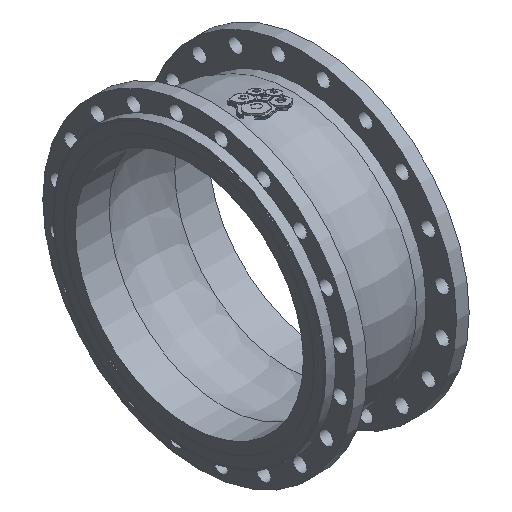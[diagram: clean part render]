
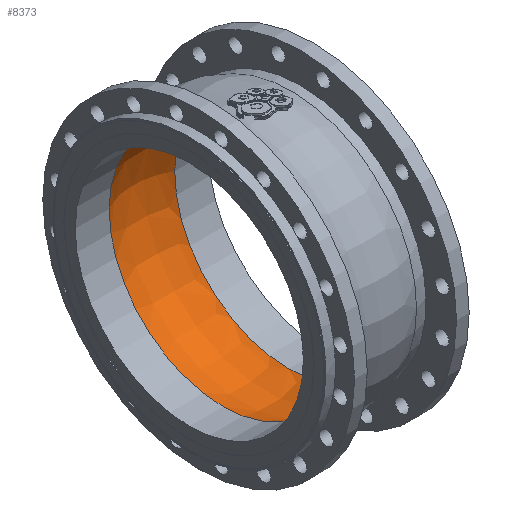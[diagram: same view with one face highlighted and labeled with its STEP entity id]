
A CAD part, isometric view. The second image highlights one B-rep face of the part: STEP entity #8373.
In plain terms, the highlighted toroidal (fillet/blend) face has major radius 112.146 mm and minor radius 130.075 mm.
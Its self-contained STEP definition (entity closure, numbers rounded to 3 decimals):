
#8373=ADVANCED_FACE('',(#15126,#15128),#15130,.F.);
#15126=FACE_BOUND('',#15127,.T.);
#15127=EDGE_LOOP('',(#20838,#20839));
#15128=FACE_BOUND('',#15129,.T.);
#15129=EDGE_LOOP('',(#20840,#20841));
#15130=DEGENERATE_TOROIDAL_SURFACE('',#15131,112.146,130.075,.T.);
#15131=AXIS2_PLACEMENT_3D('',#15132,#15133,#15134);
#15132=CARTESIAN_POINT('',(-246.97,-388.429,0.));
#15133=DIRECTION('',(1.,0.,0.));
#15134=DIRECTION('',(0.,0.,-1.));
#20838=ORIENTED_EDGE('',*,*,#23692,.T.);
#20839=ORIENTED_EDGE('',*,*,#23691,.T.);
#20840=ORIENTED_EDGE('',*,*,#23693,.F.);
#20841=ORIENTED_EDGE('',*,*,#23694,.F.);
#23691=EDGE_CURVE('',#28468,#28469,#28470,.T.);
#23692=EDGE_CURVE('',#28469,#28468,#28471,.T.);
#23693=EDGE_CURVE('',#28472,#28473,#28474,.T.);
#23694=EDGE_CURVE('',#28473,#28472,#28475,.T.);
#28468=VERTEX_POINT('',#41522);
#28469=VERTEX_POINT('',#41523);
#28470=CIRCLE('',#41524,225.);
#28471=CIRCLE('',#41528,225.);
#28472=VERTEX_POINT('',#41532);
#28473=VERTEX_POINT('',#41533);
#28474=CIRCLE('',#41534,225.);
#28475=CIRCLE('',#41538,225.);
#41522=CARTESIAN_POINT('',(-182.289,-613.429,0.));
#41523=CARTESIAN_POINT('',(-182.289,-163.429,0.));
#41524=AXIS2_PLACEMENT_3D('',#41525,#41526,#41527);
#41525=CARTESIAN_POINT('',(-182.289,-388.429,0.));
#41526=DIRECTION('',(1.,0.,0.));
#41527=DIRECTION('',(0.,-1.,0.));
#41528=AXIS2_PLACEMENT_3D('',#41529,#41530,#41531);
#41529=CARTESIAN_POINT('',(-182.289,-388.429,0.));
#41530=DIRECTION('',(1.,0.,0.));
#41531=DIRECTION('',(0.,1.,0.));
#41532=CARTESIAN_POINT('',(-311.65,-613.429,0.));
#41533=CARTESIAN_POINT('',(-311.65,-163.429,0.));
#41534=AXIS2_PLACEMENT_3D('',#41535,#41536,#41537);
#41535=CARTESIAN_POINT('',(-311.65,-388.429,0.));
#41536=DIRECTION('',(1.,0.,0.));
#41537=DIRECTION('',(0.,-1.,0.));
#41538=AXIS2_PLACEMENT_3D('',#41539,#41540,#41541);
#41539=CARTESIAN_POINT('',(-311.65,-388.429,0.));
#41540=DIRECTION('',(1.,0.,0.));
#41541=DIRECTION('',(0.,1.,0.));
